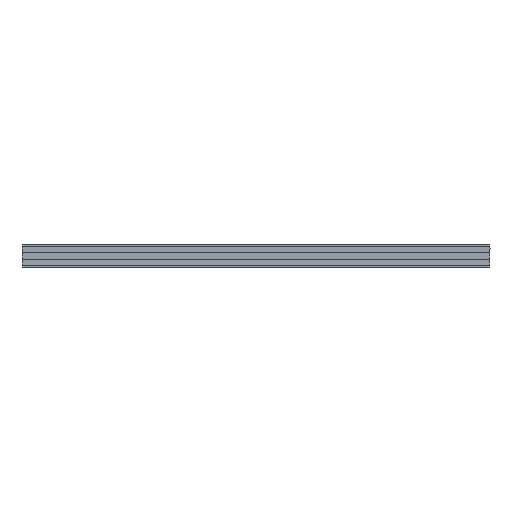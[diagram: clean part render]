
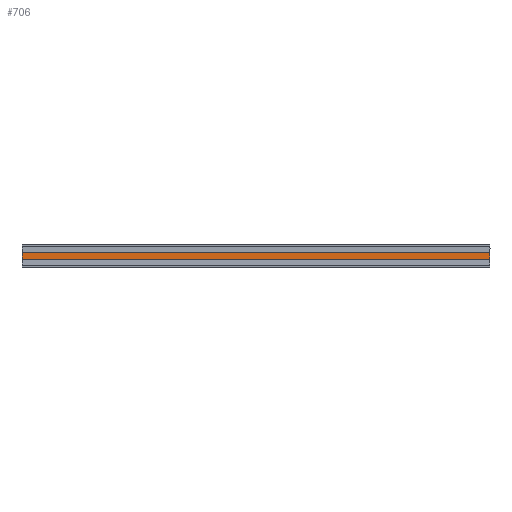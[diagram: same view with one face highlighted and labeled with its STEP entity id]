
A CAD part, top view. The second image highlights one B-rep face of the part: STEP entity #706.
In plain terms, the highlighted planar face has unit normal (0, 0, 1).
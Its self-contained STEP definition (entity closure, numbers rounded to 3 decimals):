
#6 = ORIENTED_EDGE ( 'NONE', *, *, #377, .T. ) ;
#357 = EDGE_CURVE ( 'NONE', #2105, #1470, #2348, .T. ) ;
#364 = EDGE_CURVE ( 'NONE', #2105, #680, #2331, .T. ) ;
#377 = EDGE_CURVE ( 'NONE', #680, #480, #2787, .T. ) ;
#380 = CARTESIAN_POINT ( 'NONE',  ( 0., 15.717, 14.7 ) ) ;
#383 = EDGE_CURVE ( 'NONE', #1470, #480, #1168, .T. ) ;
#480 = VERTEX_POINT ( 'NONE', #2221 ) ;
#680 = VERTEX_POINT ( 'NONE', #2137 ) ;
#706 = ADVANCED_FACE ( 'NONE', ( #1265 ), #2361, .T. ) ;
#1037 = CARTESIAN_POINT ( 'NONE',  ( 0., 15.717, 14.7 ) ) ;
#1090 = VECTOR ( 'NONE', #2008, 1000. ) ;
#1168 = LINE ( 'NONE', #1339, #1090 ) ;
#1265 = FACE_OUTER_BOUND ( 'NONE', #2555, .T. ) ;
#1267 = DIRECTION ( 'NONE',  ( 1., 0., 0. ) ) ;
#1323 = CARTESIAN_POINT ( 'NONE',  ( 2000., 0., 14.7 ) ) ;
#1339 = CARTESIAN_POINT ( 'NONE',  ( 2000.261, -14.568, 14.7 ) ) ;
#1470 = VERTEX_POINT ( 'NONE', #2693 ) ;
#1534 = DIRECTION ( 'NONE',  ( 0., -1., 0. ) ) ;
#1550 = DIRECTION ( 'NONE',  ( 0., -1., 0. ) ) ;
#1590 = ORIENTED_EDGE ( 'NONE', *, *, #357, .F. ) ;
#1702 = VECTOR ( 'NONE', #1534, 1000. ) ;
#1763 = VECTOR ( 'NONE', #2842, 1000. ) ;
#2008 = DIRECTION ( 'NONE',  ( -1., 0., 0. ) ) ;
#2105 = VERTEX_POINT ( 'NONE', #2172 ) ;
#2136 = ORIENTED_EDGE ( 'NONE', *, *, #383, .F. ) ;
#2137 = CARTESIAN_POINT ( 'NONE',  ( 0., 14.568, 14.7 ) ) ;
#2172 = CARTESIAN_POINT ( 'NONE',  ( 2000., 14.568, 14.7 ) ) ;
#2221 = CARTESIAN_POINT ( 'NONE',  ( 0., -14.568, 14.7 ) ) ;
#2232 = AXIS2_PLACEMENT_3D ( 'NONE', #1037, #2578, #1267 ) ;
#2275 = VECTOR ( 'NONE', #1550, 1000. ) ;
#2331 = LINE ( 'NONE', #2858, #1763 ) ;
#2348 = LINE ( 'NONE', #1323, #1702 ) ;
#2361 = PLANE ( 'NONE',  #2232 ) ;
#2555 = EDGE_LOOP ( 'NONE', ( #1590, #2916, #6, #2136 ) ) ;
#2578 = DIRECTION ( 'NONE',  ( 0., 0., 1. ) ) ;
#2693 = CARTESIAN_POINT ( 'NONE',  ( 2000., -14.568, 14.7 ) ) ;
#2787 = LINE ( 'NONE', #380, #2275 ) ;
#2842 = DIRECTION ( 'NONE',  ( -1., 0., 0. ) ) ;
#2858 = CARTESIAN_POINT ( 'NONE',  ( 0., 14.568, 14.7 ) ) ;
#2916 = ORIENTED_EDGE ( 'NONE', *, *, #364, .T. ) ;
